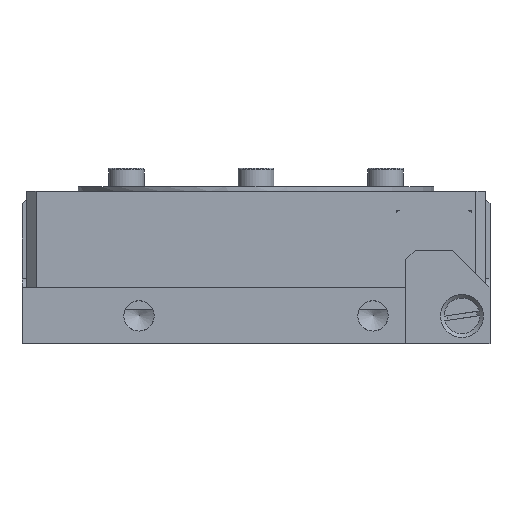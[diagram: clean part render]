
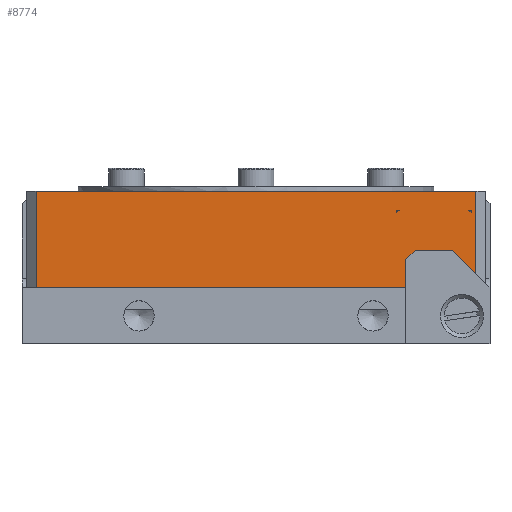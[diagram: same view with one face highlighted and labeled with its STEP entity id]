
A CAD part, front view. The second image highlights one B-rep face of the part: STEP entity #8774.
In plain terms, the highlighted planar face has unit normal (0, -1, 0).
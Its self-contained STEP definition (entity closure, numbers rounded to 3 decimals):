
#205=FACE_BOUND('',#1225,.T.);
#206=FACE_BOUND('',#1226,.T.);
#457=PLANE('',#9291);
#744=FACE_OUTER_BOUND('',#1224,.T.);
#1224=EDGE_LOOP('',(#5796,#5797,#5798,#5799,#5800,#5801,#5802,#5803,#5804,
#5805));
#1225=EDGE_LOOP('',(#5806,#5807,#5808));
#1226=EDGE_LOOP('',(#5809,#5810,#5811));
#1823=LINE('',#12469,#2559);
#1824=LINE('',#12471,#2560);
#1825=LINE('',#12473,#2561);
#1826=LINE('',#12475,#2562);
#1827=LINE('',#12479,#2563);
#1828=LINE('',#12481,#2564);
#1829=LINE('',#12483,#2565);
#1830=LINE('',#12486,#2566);
#1831=LINE('',#12489,#2567);
#1832=LINE('',#12491,#2568);
#1833=LINE('',#12492,#2569);
#1834=LINE('',#12495,#2570);
#1835=LINE('',#12497,#2571);
#1836=LINE('',#12498,#2572);
#2559=VECTOR('',#10070,10.);
#2560=VECTOR('',#10071,10.);
#2561=VECTOR('',#10072,10.);
#2562=VECTOR('',#10073,10.);
#2563=VECTOR('',#10076,10.);
#2564=VECTOR('',#10077,10.);
#2565=VECTOR('',#10078,10.);
#2566=VECTOR('',#10081,10.);
#2567=VECTOR('',#10082,10.);
#2568=VECTOR('',#10083,10.);
#2569=VECTOR('',#10084,10.);
#2570=VECTOR('',#10085,10.);
#2571=VECTOR('',#10086,10.);
#2572=VECTOR('',#10087,10.);
#3285=CIRCLE('',#9292,3.);
#3286=CIRCLE('',#9293,3.);
#3622=VERTEX_POINT('',#12467);
#3623=VERTEX_POINT('',#12468);
#3624=VERTEX_POINT('',#12470);
#3625=VERTEX_POINT('',#12472);
#3626=VERTEX_POINT('',#12474);
#3627=VERTEX_POINT('',#12476);
#3628=VERTEX_POINT('',#12478);
#3629=VERTEX_POINT('',#12480);
#3630=VERTEX_POINT('',#12482);
#3631=VERTEX_POINT('',#12484);
#3632=VERTEX_POINT('',#12487);
#3633=VERTEX_POINT('',#12488);
#3634=VERTEX_POINT('',#12490);
#3635=VERTEX_POINT('',#12493);
#3636=VERTEX_POINT('',#12494);
#3637=VERTEX_POINT('',#12496);
#4487=EDGE_CURVE('',#3622,#3623,#1823,.T.);
#4488=EDGE_CURVE('',#3622,#3624,#1824,.T.);
#4489=EDGE_CURVE('',#3624,#3625,#1825,.T.);
#4490=EDGE_CURVE('',#3626,#3625,#1826,.T.);
#4491=EDGE_CURVE('',#3627,#3626,#3285,.T.);
#4492=EDGE_CURVE('',#3628,#3627,#1827,.T.);
#4493=EDGE_CURVE('',#3629,#3628,#1828,.T.);
#4494=EDGE_CURVE('',#3630,#3629,#1829,.T.);
#4495=EDGE_CURVE('',#3631,#3630,#3286,.T.);
#4496=EDGE_CURVE('',#3623,#3631,#1830,.T.);
#4497=EDGE_CURVE('',#3632,#3633,#1831,.T.);
#4498=EDGE_CURVE('',#3633,#3634,#1832,.T.);
#4499=EDGE_CURVE('',#3634,#3632,#1833,.T.);
#4500=EDGE_CURVE('',#3635,#3636,#1834,.T.);
#4501=EDGE_CURVE('',#3636,#3637,#1835,.T.);
#4502=EDGE_CURVE('',#3637,#3635,#1836,.T.);
#5796=ORIENTED_EDGE('',*,*,#4487,.F.);
#5797=ORIENTED_EDGE('',*,*,#4488,.T.);
#5798=ORIENTED_EDGE('',*,*,#4489,.T.);
#5799=ORIENTED_EDGE('',*,*,#4490,.F.);
#5800=ORIENTED_EDGE('',*,*,#4491,.F.);
#5801=ORIENTED_EDGE('',*,*,#4492,.F.);
#5802=ORIENTED_EDGE('',*,*,#4493,.F.);
#5803=ORIENTED_EDGE('',*,*,#4494,.F.);
#5804=ORIENTED_EDGE('',*,*,#4495,.F.);
#5805=ORIENTED_EDGE('',*,*,#4496,.F.);
#5806=ORIENTED_EDGE('',*,*,#4497,.T.);
#5807=ORIENTED_EDGE('',*,*,#4498,.T.);
#5808=ORIENTED_EDGE('',*,*,#4499,.T.);
#5809=ORIENTED_EDGE('',*,*,#4500,.T.);
#5810=ORIENTED_EDGE('',*,*,#4501,.T.);
#5811=ORIENTED_EDGE('',*,*,#4502,.T.);
#8774=ADVANCED_FACE('',(#744,#205,#206),#457,.T.);
#9291=AXIS2_PLACEMENT_3D('',#12466,#10068,#10069);
#9292=AXIS2_PLACEMENT_3D('',#12477,#10074,#10075);
#9293=AXIS2_PLACEMENT_3D('',#12485,#10079,#10080);
#10068=DIRECTION('center_axis',(0.,-1.,0.));
#10069=DIRECTION('ref_axis',(0.,0.,
-1.));
#10070=DIRECTION('',(0.,0.,-1.));
#10071=DIRECTION('',(-1.,0.,0.));
#10072=DIRECTION('',(0.,0.,-1.));
#10073=DIRECTION('',(-1.,0.,0.));
#10074=DIRECTION('center_axis',(0.,1.,0.));
#10075=DIRECTION('ref_axis',(-0.866,0.,-0.5));
#10076=DIRECTION('',(0.,0.,1.));
#10077=DIRECTION('',(-1.,0.,0.));
#10078=DIRECTION('',(0.,0.,-1.));
#10079=DIRECTION('center_axis',(0.,1.,0.));
#10080=DIRECTION('ref_axis',(-0.866,0.,-0.5));
#10081=DIRECTION('',(-1.,0.,0.));
#10082=DIRECTION('',(-0.707,0.,0.707));
#10083=DIRECTION('',(1.,0.,0.));
#10084=DIRECTION('',(0.,0.,-1.));
#10085=DIRECTION('',(0.,0.,1.));
#10086=DIRECTION('',(1.,0.,0.));
#10087=DIRECTION('',(-0.707,0.,-0.707));
#12466=CARTESIAN_POINT('Origin',(90.54,128.96,2.849));
#12467=CARTESIAN_POINT('',(89.54,128.96,9.849));
#12468=CARTESIAN_POINT('',(89.54,128.96,-0.451));
#12469=CARTESIAN_POINT('',(89.54,128.96,2.849));
#12470=CARTESIAN_POINT('',(42.54,128.96,9.849));
#12471=CARTESIAN_POINT('',(90.54,128.96,9.849));
#12472=CARTESIAN_POINT('',(42.54,128.96,-0.451));
#12473=CARTESIAN_POINT('',(42.54,128.96,6.849));
#12474=CARTESIAN_POINT('',(82.442,128.96,-0.451));
#12475=CARTESIAN_POINT('',(77.989,128.96,-0.451));
#12476=CARTESIAN_POINT('',(83.54,128.96,-1.549));
#12477=CARTESIAN_POINT('Origin',(85.04,128.96,1.049));
#12478=CARTESIAN_POINT('',(83.54,128.96,-2.451));
#12479=CARTESIAN_POINT('',(83.54,128.96,0.65));
#12480=CARTESIAN_POINT('',(86.54,128.96,-2.451));
#12481=CARTESIAN_POINT('',(87.79,128.96,-2.451));
#12482=CARTESIAN_POINT('',(86.54,128.96,-1.549));
#12483=CARTESIAN_POINT('',(86.54,128.96,0.049));
#12484=CARTESIAN_POINT('',(87.638,128.96,-0.451));
#12485=CARTESIAN_POINT('Origin',(85.04,128.96,1.049));
#12486=CARTESIAN_POINT('',(77.989,128.96,-0.451));
#12487=CARTESIAN_POINT('',(89.04,128.96,7.549));
#12488=CARTESIAN_POINT('',(88.74,128.96,7.849));
#12489=CARTESIAN_POINT('',(86.965,128.96,9.624));
#12490=CARTESIAN_POINT('',(89.04,128.96,7.849));
#12491=CARTESIAN_POINT('',(87.79,128.96,7.849));
#12492=CARTESIAN_POINT('',(89.04,128.96,2.849));
#12493=CARTESIAN_POINT('',(81.04,128.96,7.549));
#12494=CARTESIAN_POINT('',(81.04,128.96,7.849));
#12495=CARTESIAN_POINT('',(81.04,128.96,2.849));
#12496=CARTESIAN_POINT('',(81.34,128.96,7.849));
#12497=CARTESIAN_POINT('',(87.79,128.96,7.849));
#12498=CARTESIAN_POINT('',(81.265,128.96,7.774));
